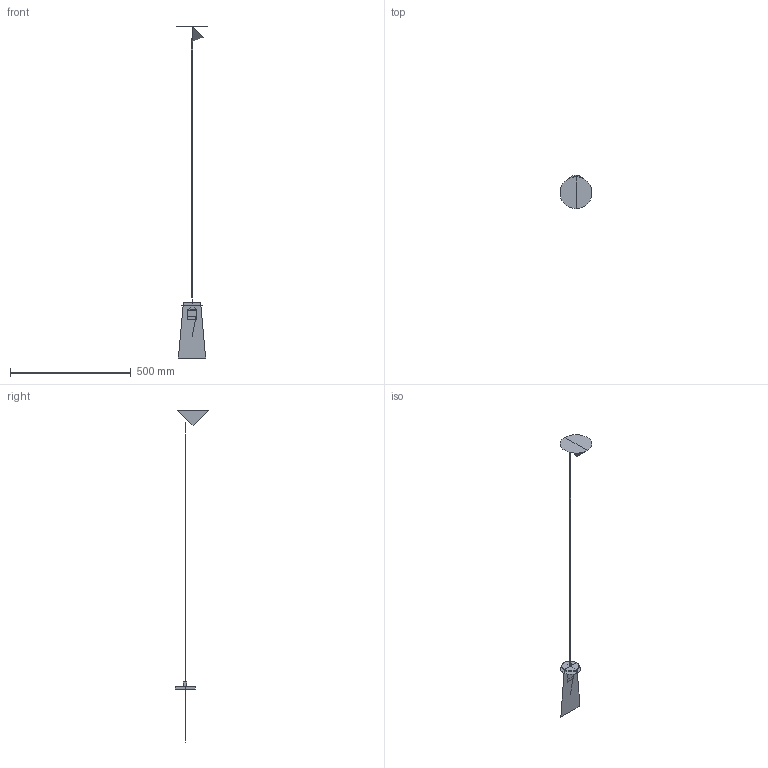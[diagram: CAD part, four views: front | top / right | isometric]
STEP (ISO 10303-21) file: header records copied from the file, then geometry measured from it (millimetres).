
FILE_DESCRIPTION(/* description */ (''),/* implementation_level */ '2;1');
FILE_NAME(/* name */ 'aggregato sferico d25',/* time_stamp */ '2016-05-16T10:34:28+02:00',/* author */ (''),/* organization */ (''),/* preprocessor_version */ 'ST-DEVELOPER v10',/* originating_system */ '',/* authorisation */ '');
FILE_SCHEMA (('CONFIG_CONTROL_DESIGN'));
Length unit declared in the file: millimetre
Products named in the file (1): 1
Bounding box: 131.4 x 140.23 x 1372.8 mm (x, y, z)
Surface area: 289632.3 mm2 (no closed solid volume)
Topology: 0 solids, 26 shells, 28 faces, 106 edges, 99 vertices
Faces by surface type: bspline 18, plane 10
Entity records: 1447 total; most frequent: CARTESIAN_POINT 874, ORIENTED_EDGE 100, EDGE_CURVE 96, VERTEX_POINT 93, ADVANCED_FACE 28, FACE_OUTER_BOUND 28, EDGE_LOOP 28, SHELL_BASED_SURFACE_MODEL 26
